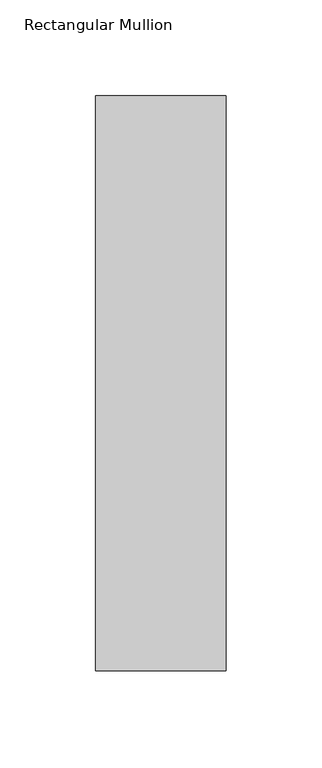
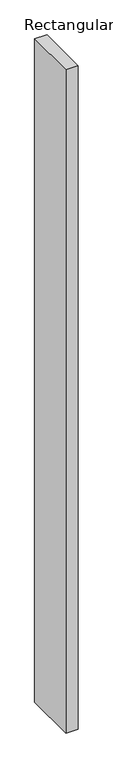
"""IFC4 building model written with IfcOpenShell, lengths in millimetres: member geometry, Rectangular Mullion : DucoSun Cubic Design louvre 300."""

from ifc_helpers import new_model, si_unit, frame, origin, place, context, project, spatial, polyline, outline, extrude, source, transform, mapped, element, save


def rectangular_mullion_aae955fb(model_context):
    return source(origin(), model_context, "Body", "SweptSolid", [
        extrude(outline(polyline([(34.0, -300.0), (-34.0, -300.0), (-34.0, 0.0), (34.0, 0.0), (34.0, -300.0)])), frame((0.0, 0.0, -3900.0), z_axis=(0.0, 0.0, 1.0), x_axis=(1.0, 0.0, 0.0)), (0.0, 0.0, 1.0), 3900.0),
    ])


if __name__ == "__main__":
    model = new_model("IFC4")
    model_context = context("Model", 3, world=origin())
    ifc_project = project(units=[si_unit("LENGTHUNIT", "METRE", prefix="MILLI")], contexts=[model_context])
    site = spatial("IfcSite", under=ifc_project)
    building = spatial("IfcBuilding", under=site)
    placement = place(None, origin())
    rectangular_mullion_shape = rectangular_mullion_aae955fb(model_context)
    element("IfcMember", 1, ObjectType="Rectangular Mullion : DucoSun Cubic Design louvre 300", at=placement, inside=building, context=model_context, shape_type="MappedRepresentation", body=[
        mapped(rectangular_mullion_shape, transform((0.0, 0.0, 0.0), x_axis=(1.0, 0.0, 0.0), y_axis=(0.0, 1.0, 0.0), z_axis=(0.0, 0.0, 1.0))),
    ])
    save(model, "model.ifc")
